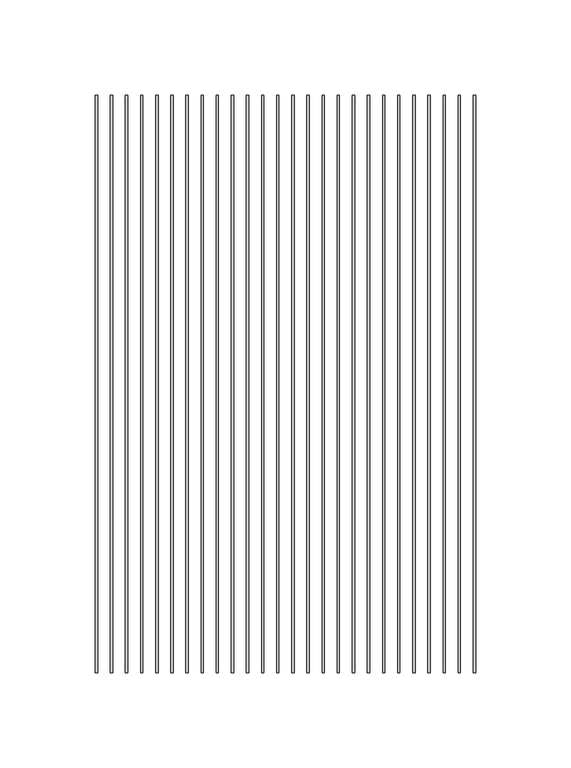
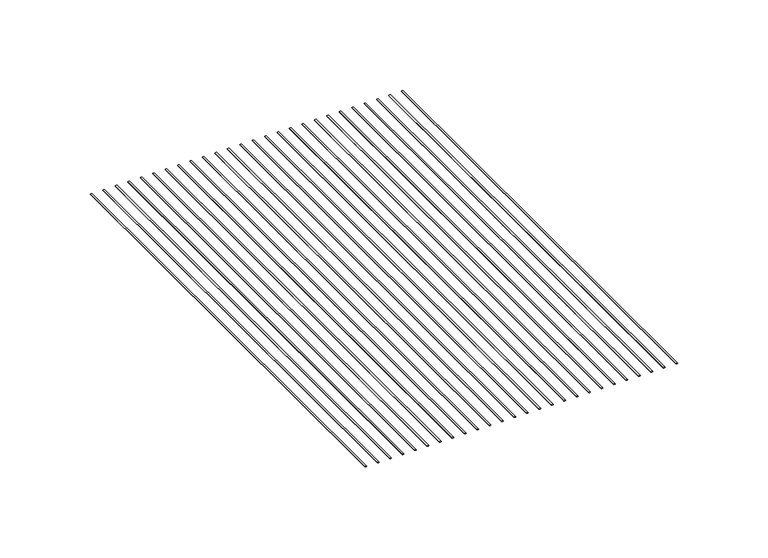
"""IFC4 building model written with IfcOpenShell, lengths in millimetres: proxy geometry, CRAi Generic Model Mesh Piece Face Based : CRAi Generic Model Mesh Piece Face Based."""

from ifc_helpers import new_model, si_unit, point, frame, origin, place, context, project, spatial, ellipse_curve, trimmed, source, transform, mapped, element, save
from ifc_brep_helpers import plane_surface, extruded_surface, advanced_brep


def generic_models_9cce42f9(model_context):
    return source(origin(), model_context, "Body", "AdvancedBrep", [
        advanced_brep(
        [(-164.9015625, -151.5685464, -2.5796875), (-163.7109375, -151.5685464, -2.5796875), (-164.9015625, 151.5685464, -2.5796875), (-163.7109375, 151.5685464, -2.5796875)],
        [
            (0, 1, ellipse_curve(frame((-164.30625, -151.5685464, -2.5796875), z_axis=(0.0, -1.0, 0.0), x_axis=(1.0, 0.0, 0.0)), 0.5953125, 0.1984375)),
            (1, 0, ellipse_curve(frame((-164.30625, -151.5685464, -2.5796875), z_axis=(0.0, -1.0, 0.0), x_axis=(1.0, 0.0, 0.0)), 0.5953125, 0.1984375)),
            (2, 3, ellipse_curve(frame((-164.30625, 151.5685464, -2.5796875), z_axis=(0.0, 1.0, 0.0), x_axis=(1.0, 0.0, 0.0)), 0.5953125, 0.1984375)),
            (3, 2, ellipse_curve(frame((-164.30625, 151.5685464, -2.5796875), z_axis=(0.0, 1.0, 0.0), x_axis=(1.0, 0.0, 0.0)), 0.5953125, 0.1984375)),
            (0, 2),
            (3, 1),
        ],
        [
            plane_surface(frame((-164.30625, -151.5685464, -2.5796875), z_axis=(0.0, -1.0, 0.0), x_axis=(0.0, 0.0, 1.0))),
            plane_surface(frame((-164.30625, 151.5685464, -2.5796875), z_axis=(0.0, 1.0, 0.0), x_axis=(0.0, 0.0, 1.0))),
            extruded_surface(trimmed(ellipse_curve(frame((-164.30625, 151.5685464, -2.5796875), z_axis=(0.0, -1.0, 0.0), x_axis=(1.0, 0.0, 0.0)), 0.5953125, 0.1984375), [point((-164.9015625, 151.5685464, -2.5796875))], [point((-163.7109375, 151.5685464, -2.5796875))], True, "CARTESIAN"), (0.0, -303.1370928, 0.0), 303.1370928),
            extruded_surface(trimmed(ellipse_curve(frame((-164.30625, 151.5685464, -2.5796875), z_axis=(0.0, -1.0, 0.0), x_axis=(1.0, 0.0, 0.0)), 0.5953125, 0.1984375), [point((-163.7109375, 151.5685464, -2.5796875))], [point((-164.9015625, 151.5685464, -2.5796875))], True, "CARTESIAN"), (0.0, -303.1370928, 0.0), 303.1370928),
        ],
        [
            (0, [[1, 2]]),
            (1, [[3, 4]]),
            (2, [[-1, 5, -4, 6]]),
            (3, [[-2, -6, -3, -5]]),
        ],
    ),
        advanced_brep(
        [(-156.9640625, -151.5685464, -2.5796875), (-155.7734375, -151.5685464, -2.5796875), (-156.9640625, 151.5685464, -2.5796875), (-155.7734375, 151.5685464, -2.5796875)],
        [
            (0, 1, ellipse_curve(frame((-156.36875, -151.5685464, -2.5796875), z_axis=(0.0, -1.0, 0.0), x_axis=(1.0, 0.0, 0.0)), 0.5953125, 0.1984375)),
            (1, 0, ellipse_curve(frame((-156.36875, -151.5685464, -2.5796875), z_axis=(0.0, -1.0, 0.0), x_axis=(1.0, 0.0, 0.0)), 0.5953125, 0.1984375)),
            (2, 3, ellipse_curve(frame((-156.36875, 151.5685464, -2.5796875), z_axis=(0.0, 1.0, 0.0), x_axis=(1.0, 0.0, 0.0)), 0.5953125, 0.1984375)),
            (3, 2, ellipse_curve(frame((-156.36875, 151.5685464, -2.5796875), z_axis=(0.0, 1.0, 0.0), x_axis=(1.0, 0.0, 0.0)), 0.5953125, 0.1984375)),
            (0, 2),
            (3, 1),
        ],
        [
            plane_surface(frame((-156.36875, -151.5685464, -2.5796875), z_axis=(0.0, -1.0, 0.0), x_axis=(0.0, 0.0, 1.0))),
            plane_surface(frame((-156.36875, 151.5685464, -2.5796875), z_axis=(0.0, 1.0, 0.0), x_axis=(0.0, 0.0, 1.0))),
            extruded_surface(trimmed(ellipse_curve(frame((-156.36875, 151.5685464, -2.5796875), z_axis=(0.0, -1.0, 0.0), x_axis=(1.0, 0.0, 0.0)), 0.5953125, 0.1984375), [point((-156.9640625, 151.5685464, -2.5796875))], [point((-155.7734375, 151.5685464, -2.5796875))], True, "CARTESIAN"), (0.0, -303.1370928, 0.0), 303.1370928),
            extruded_surface(trimmed(ellipse_curve(frame((-156.36875, 151.5685464, -2.5796875), z_axis=(0.0, -1.0, 0.0), x_axis=(1.0, 0.0, 0.0)), 0.5953125, 0.1984375), [point((-155.7734375, 151.5685464, -2.5796875))], [point((-156.9640625, 151.5685464, -2.5796875))], True, "CARTESIAN"), (0.0, -303.1370928, 0.0), 303.1370928),
        ],
        [
            (0, [[1, 2]]),
            (1, [[3, 4]]),
            (2, [[-1, 5, -4, 6]]),
            (3, [[-2, -6, -3, -5]]),
        ],
    ),
        advanced_brep(
        [(-149.0265625, -151.5685464, -2.5796875), (-147.8359375, -151.5685464, -2.5796875), (-149.0265625, 151.5685464, -2.5796875), (-147.8359375, 151.5685464, -2.5796875)],
        [
            (0, 1, ellipse_curve(frame((-148.43125, -151.5685464, -2.5796875), z_axis=(0.0, -1.0, 0.0), x_axis=(1.0, 0.0, 0.0)), 0.5953125, 0.1984375)),
            (1, 0, ellipse_curve(frame((-148.43125, -151.5685464, -2.5796875), z_axis=(0.0, -1.0, 0.0), x_axis=(1.0, 0.0, 0.0)), 0.5953125, 0.1984375)),
            (2, 3, ellipse_curve(frame((-148.43125, 151.5685464, -2.5796875), z_axis=(0.0, 1.0, 0.0), x_axis=(1.0, 0.0, 0.0)), 0.5953125, 0.1984375)),
            (3, 2, ellipse_curve(frame((-148.43125, 151.5685464, -2.5796875), z_axis=(0.0, 1.0, 0.0), x_axis=(1.0, 0.0, 0.0)), 0.5953125, 0.1984375)),
            (0, 2),
            (3, 1),
        ],
        [
            plane_surface(frame((-148.43125, -151.5685464, -2.5796875), z_axis=(0.0, -1.0, 0.0), x_axis=(0.0, 0.0, 1.0))),
            plane_surface(frame((-148.43125, 151.5685464, -2.5796875), z_axis=(0.0, 1.0, 0.0), x_axis=(0.0, 0.0, 1.0))),
            extruded_surface(trimmed(ellipse_curve(frame((-148.43125, 151.5685464, -2.5796875), z_axis=(0.0, -1.0, 0.0), x_axis=(1.0, 0.0, 0.0)), 0.5953125, 0.1984375), [point((-149.0265625, 151.5685464, -2.5796875))], [point((-147.8359375, 151.5685464, -2.5796875))], True, "CARTESIAN"), (0.0, -303.1370928, 0.0), 303.1370928),
            extruded_surface(trimmed(ellipse_curve(frame((-148.43125, 151.5685464, -2.5796875), z_axis=(0.0, -1.0, 0.0), x_axis=(1.0, 0.0, 0.0)), 0.5953125, 0.1984375), [point((-147.8359375, 151.5685464, -2.5796875))], [point((-149.0265625, 151.5685464, -2.5796875))], True, "CARTESIAN"), (0.0, -303.1370928, 0.0), 303.1370928),
        ],
        [
            (0, [[1, 2]]),
            (1, [[3, 4]]),
            (2, [[-1, 5, -4, 6]]),
            (3, [[-2, -6, -3, -5]]),
        ],
    ),
        advanced_brep(
        [(-141.0890625, -151.5685464, -2.5796875), (-139.8984375, -151.5685464, -2.5796875), (-141.0890625, 151.5685464, -2.5796875), (-139.8984375, 151.5685464, -2.5796875)],
        [
            (0, 1, ellipse_curve(frame((-140.49375, -151.5685464, -2.5796875), z_axis=(0.0, -1.0, 0.0), x_axis=(1.0, 0.0, 0.0)), 0.5953125, 0.1984375)),
            (1, 0, ellipse_curve(frame((-140.49375, -151.5685464, -2.5796875), z_axis=(0.0, -1.0, 0.0), x_axis=(1.0, 0.0, 0.0)), 0.5953125, 0.1984375)),
            (2, 3, ellipse_curve(frame((-140.49375, 151.5685464, -2.5796875), z_axis=(0.0, 1.0, 0.0), x_axis=(1.0, 0.0, 0.0)), 0.5953125, 0.1984375)),
            (3, 2, ellipse_curve(frame((-140.49375, 151.5685464, -2.5796875), z_axis=(0.0, 1.0, 0.0), x_axis=(1.0, 0.0, 0.0)), 0.5953125, 0.1984375)),
            (0, 2),
            (3, 1),
        ],
        [
            plane_surface(frame((-140.49375, -151.5685464, -2.5796875), z_axis=(0.0, -1.0, 0.0), x_axis=(0.0, 0.0, 1.0))),
            plane_surface(frame((-140.49375, 151.5685464, -2.5796875), z_axis=(0.0, 1.0, 0.0), x_axis=(0.0, 0.0, 1.0))),
            extruded_surface(trimmed(ellipse_curve(frame((-140.49375, 151.5685464, -2.5796875), z_axis=(0.0, -1.0, 0.0), x_axis=(1.0, 0.0, 0.0)), 0.5953125, 0.1984375), [point((-141.0890625, 151.5685464, -2.5796875))], [point((-139.8984375, 151.5685464, -2.5796875))], True, "CARTESIAN"), (0.0, -303.1370928, 0.0), 303.1370928),
            extruded_surface(trimmed(ellipse_curve(frame((-140.49375, 151.5685464, -2.5796875), z_axis=(0.0, -1.0, 0.0), x_axis=(1.0, 0.0, 0.0)), 0.5953125, 0.1984375), [point((-139.8984375, 151.5685464, -2.5796875))], [point((-141.0890625, 151.5685464, -2.5796875))], True, "CARTESIAN"), (0.0, -303.1370928, 0.0), 303.1370928),
        ],
        [
            (0, [[1, 2]]),
            (1, [[3, 4]]),
            (2, [[-1, 5, -4, 6]]),
            (3, [[-2, -6, -3, -5]]),
        ],
    ),
        advanced_brep(
        [(-133.1515625, -151.5685464, -2.5796875), (-131.9609375, -151.5685464, -2.5796875), (-133.1515625, 151.5685464, -2.5796875), (-131.9609375, 151.5685464, -2.5796875)],
        [
            (0, 1, ellipse_curve(frame((-132.55625, -151.5685464, -2.5796875), z_axis=(0.0, -1.0, 0.0), x_axis=(1.0, 0.0, 0.0)), 0.5953125, 0.1984375)),
            (1, 0, ellipse_curve(frame((-132.55625, -151.5685464, -2.5796875), z_axis=(0.0, -1.0, 0.0), x_axis=(1.0, 0.0, 0.0)), 0.5953125, 0.1984375)),
            (2, 3, ellipse_curve(frame((-132.55625, 151.5685464, -2.5796875), z_axis=(0.0, 1.0, 0.0), x_axis=(1.0, 0.0, 0.0)), 0.5953125, 0.1984375)),
            (3, 2, ellipse_curve(frame((-132.55625, 151.5685464, -2.5796875), z_axis=(0.0, 1.0, 0.0), x_axis=(1.0, 0.0, 0.0)), 0.5953125, 0.1984375)),
            (0, 2),
            (3, 1),
        ],
        [
            plane_surface(frame((-132.55625, -151.5685464, -2.5796875), z_axis=(0.0, -1.0, 0.0), x_axis=(0.0, 0.0, 1.0))),
            plane_surface(frame((-132.55625, 151.5685464, -2.5796875), z_axis=(0.0, 1.0, 0.0), x_axis=(0.0, 0.0, 1.0))),
            extruded_surface(trimmed(ellipse_curve(frame((-132.55625, 151.5685464, -2.5796875), z_axis=(0.0, -1.0, 0.0), x_axis=(1.0, 0.0, 0.0)), 0.5953125, 0.1984375), [point((-133.1515625, 151.5685464, -2.5796875))], [point((-131.9609375, 151.5685464, -2.5796875))], True, "CARTESIAN"), (0.0, -303.1370928, 0.0), 303.1370928),
            extruded_surface(trimmed(ellipse_curve(frame((-132.55625, 151.5685464, -2.5796875), z_axis=(0.0, -1.0, 0.0), x_axis=(1.0, 0.0, 0.0)), 0.5953125, 0.1984375), [point((-131.9609375, 151.5685464, -2.5796875))], [point((-133.1515625, 151.5685464, -2.5796875))], True, "CARTESIAN"), (0.0, -303.1370928, 0.0), 303.1370928),
        ],
        [
            (0, [[1, 2]]),
            (1, [[3, 4]]),
            (2, [[-1, 5, -4, 6]]),
            (3, [[-2, -6, -3, -5]]),
        ],
    ),
        advanced_brep(
        [(-125.2140625, -151.5685464, -2.5796875), (-124.0234375, -151.5685464, -2.5796875), (-125.2140625, 151.5685464, -2.5796875), (-124.0234375, 151.5685464, -2.5796875)],
        [
            (0, 1, ellipse_curve(frame((-124.61875, -151.5685464, -2.5796875), z_axis=(0.0, -1.0, 0.0), x_axis=(1.0, 0.0, 0.0)), 0.5953125, 0.1984375)),
            (1, 0, ellipse_curve(frame((-124.61875, -151.5685464, -2.5796875), z_axis=(0.0, -1.0, 0.0), x_axis=(1.0, 0.0, 0.0)), 0.5953125, 0.1984375)),
            (2, 3, ellipse_curve(frame((-124.61875, 151.5685464, -2.5796875), z_axis=(0.0, 1.0, 0.0), x_axis=(1.0, 0.0, 0.0)), 0.5953125, 0.1984375)),
            (3, 2, ellipse_curve(frame((-124.61875, 151.5685464, -2.5796875), z_axis=(0.0, 1.0, 0.0), x_axis=(1.0, 0.0, 0.0)), 0.5953125, 0.1984375)),
            (0, 2),
            (3, 1),
        ],
        [
            plane_surface(frame((-124.61875, -151.5685464, -2.5796875), z_axis=(0.0, -1.0, 0.0), x_axis=(0.0, 0.0, 1.0))),
            plane_surface(frame((-124.61875, 151.5685464, -2.5796875), z_axis=(0.0, 1.0, 0.0), x_axis=(0.0, 0.0, 1.0))),
            extruded_surface(trimmed(ellipse_curve(frame((-124.61875, 151.5685464, -2.5796875), z_axis=(0.0, -1.0, 0.0), x_axis=(1.0, 0.0, 0.0)), 0.5953125, 0.1984375), [point((-125.2140625, 151.5685464, -2.5796875))], [point((-124.0234375, 151.5685464, -2.5796875))], True, "CARTESIAN"), (0.0, -303.1370928, 0.0), 303.1370928),
            extruded_surface(trimmed(ellipse_curve(frame((-124.61875, 151.5685464, -2.5796875), z_axis=(0.0, -1.0, 0.0), x_axis=(1.0, 0.0, 0.0)), 0.5953125, 0.1984375), [point((-124.0234375, 151.5685464, -2.5796875))], [point((-125.2140625, 151.5685464, -2.5796875))], True, "CARTESIAN"), (0.0, -303.1370928, 0.0), 303.1370928),
        ],
        [
            (0, [[1, 2]]),
            (1, [[3, 4]]),
            (2, [[-1, 5, -4, 6]]),
            (3, [[-2, -6, -3, -5]]),
        ],
    ),
        advanced_brep(
        [(-117.2765625, -151.5685464, -2.5796875), (-116.0859375, -151.5685464, -2.5796875), (-117.2765625, 151.5685464, -2.5796875), (-116.0859375, 151.5685464, -2.5796875)],
        [
            (0, 1, ellipse_curve(frame((-116.68125, -151.5685464, -2.5796875), z_axis=(0.0, -1.0, 0.0), x_axis=(1.0, 0.0, 0.0)), 0.5953125, 0.1984375)),
            (1, 0, ellipse_curve(frame((-116.68125, -151.5685464, -2.5796875), z_axis=(0.0, -1.0, 0.0), x_axis=(1.0, 0.0, 0.0)), 0.5953125, 0.1984375)),
            (2, 3, ellipse_curve(frame((-116.68125, 151.5685464, -2.5796875), z_axis=(0.0, 1.0, 0.0), x_axis=(1.0, 0.0, 0.0)), 0.5953125, 0.1984375)),
            (3, 2, ellipse_curve(frame((-116.68125, 151.5685464, -2.5796875), z_axis=(0.0, 1.0, 0.0), x_axis=(1.0, 0.0, 0.0)), 0.5953125, 0.1984375)),
            (0, 2),
            (3, 1),
        ],
        [
            plane_surface(frame((-116.68125, -151.5685464, -2.5796875), z_axis=(0.0, -1.0, 0.0), x_axis=(0.0, 0.0, 1.0))),
            plane_surface(frame((-116.68125, 151.5685464, -2.5796875), z_axis=(0.0, 1.0, 0.0), x_axis=(0.0, 0.0, 1.0))),
            extruded_surface(trimmed(ellipse_curve(frame((-116.68125, 151.5685464, -2.5796875), z_axis=(0.0, -1.0, 0.0), x_axis=(1.0, 0.0, 0.0)), 0.5953125, 0.1984375), [point((-117.2765625, 151.5685464, -2.5796875))], [point((-116.0859375, 151.5685464, -2.5796875))], True, "CARTESIAN"), (0.0, -303.1370928, 0.0), 303.1370928),
            extruded_surface(trimmed(ellipse_curve(frame((-116.68125, 151.5685464, -2.5796875), z_axis=(0.0, -1.0, 0.0), x_axis=(1.0, 0.0, 0.0)), 0.5953125, 0.1984375), [point((-116.0859375, 151.5685464, -2.5796875))], [point((-117.2765625, 151.5685464, -2.5796875))], True, "CARTESIAN"), (0.0, -303.1370928, 0.0), 303.1370928),
        ],
        [
            (0, [[1, 2]]),
            (1, [[3, 4]]),
            (2, [[-1, 5, -4, 6]]),
            (3, [[-2, -6, -3, -5]]),
        ],
    ),
        advanced_brep(
        [(-109.3390625, -151.5685464, -2.5796875), (-108.1484375, -151.5685464, -2.5796875), (-109.3390625, 151.5685464, -2.5796875), (-108.1484375, 151.5685464, -2.5796875)],
        [
            (0, 1, ellipse_curve(frame((-108.74375, -151.5685464, -2.5796875), z_axis=(0.0, -1.0, 0.0), x_axis=(1.0, 0.0, 0.0)), 0.5953125, 0.1984375)),
            (1, 0, ellipse_curve(frame((-108.74375, -151.5685464, -2.5796875), z_axis=(0.0, -1.0, 0.0), x_axis=(1.0, 0.0, 0.0)), 0.5953125, 0.1984375)),
            (2, 3, ellipse_curve(frame((-108.74375, 151.5685464, -2.5796875), z_axis=(0.0, 1.0, 0.0), x_axis=(1.0, 0.0, 0.0)), 0.5953125, 0.1984375)),
            (3, 2, ellipse_curve(frame((-108.74375, 151.5685464, -2.5796875), z_axis=(0.0, 1.0, 0.0), x_axis=(1.0, 0.0, 0.0)), 0.5953125, 0.1984375)),
            (0, 2),
            (3, 1),
        ],
        [
            plane_surface(frame((-108.74375, -151.5685464, -2.5796875), z_axis=(0.0, -1.0, 0.0), x_axis=(0.0, 0.0, 1.0))),
            plane_surface(frame((-108.74375, 151.5685464, -2.5796875), z_axis=(0.0, 1.0, 0.0), x_axis=(0.0, 0.0, 1.0))),
            extruded_surface(trimmed(ellipse_curve(frame((-108.74375, 151.5685464, -2.5796875), z_axis=(0.0, -1.0, 0.0), x_axis=(1.0, 0.0, 0.0)), 0.5953125, 0.1984375), [point((-109.3390625, 151.5685464, -2.5796875))], [point((-108.1484375, 151.5685464, -2.5796875))], True, "CARTESIAN"), (0.0, -303.1370928, 0.0), 303.1370928),
            extruded_surface(trimmed(ellipse_curve(frame((-108.74375, 151.5685464, -2.5796875), z_axis=(0.0, -1.0, 0.0), x_axis=(1.0, 0.0, 0.0)), 0.5953125, 0.1984375), [point((-108.1484375, 151.5685464, -2.5796875))], [point((-109.3390625, 151.5685464, -2.5796875))], True, "CARTESIAN"), (0.0, -303.1370928, 0.0), 303.1370928),
        ],
        [
            (0, [[1, 2]]),
            (1, [[3, 4]]),
            (2, [[-1, 5, -4, 6]]),
            (3, [[-2, -6, -3, -5]]),
        ],
    ),
        advanced_brep(
        [(-101.4015625, -151.5685464, -2.5796875), (-100.2109375, -151.5685464, -2.5796875), (-101.4015625, 151.5685464, -2.5796875), (-100.2109375, 151.5685464, -2.5796875)],
        [
            (0, 1, ellipse_curve(frame((-100.80625, -151.5685464, -2.5796875), z_axis=(0.0, -1.0, 0.0), x_axis=(1.0, 0.0, 0.0)), 0.5953125, 0.1984375)),
            (1, 0, ellipse_curve(frame((-100.80625, -151.5685464, -2.5796875), z_axis=(0.0, -1.0, 0.0), x_axis=(1.0, 0.0, 0.0)), 0.5953125, 0.1984375)),
            (2, 3, ellipse_curve(frame((-100.80625, 151.5685464, -2.5796875), z_axis=(0.0, 1.0, 0.0), x_axis=(1.0, 0.0, 0.0)), 0.5953125, 0.1984375)),
            (3, 2, ellipse_curve(frame((-100.80625, 151.5685464, -2.5796875), z_axis=(0.0, 1.0, 0.0), x_axis=(1.0, 0.0, 0.0)), 0.5953125, 0.1984375)),
            (0, 2),
            (3, 1),
        ],
        [
            plane_surface(frame((-100.80625, -151.5685464, -2.5796875), z_axis=(0.0, -1.0, 0.0), x_axis=(0.0, 0.0, 1.0))),
            plane_surface(frame((-100.80625, 151.5685464, -2.5796875), z_axis=(0.0, 1.0, 0.0), x_axis=(0.0, 0.0, 1.0))),
            extruded_surface(trimmed(ellipse_curve(frame((-100.80625, 151.5685464, -2.5796875), z_axis=(0.0, -1.0, 0.0), x_axis=(1.0, 0.0, 0.0)), 0.5953125, 0.1984375), [point((-101.4015625, 151.5685464, -2.5796875))], [point((-100.2109375, 151.5685464, -2.5796875))], True, "CARTESIAN"), (0.0, -303.1370928, 0.0), 303.1370928),
            extruded_surface(trimmed(ellipse_curve(frame((-100.80625, 151.5685464, -2.5796875), z_axis=(0.0, -1.0, 0.0), x_axis=(1.0, 0.0, 0.0)), 0.5953125, 0.1984375), [point((-100.2109375, 151.5685464, -2.5796875))], [point((-101.4015625, 151.5685464, -2.5796875))], True, "CARTESIAN"), (0.0, -303.1370928, 0.0), 303.1370928),
        ],
        [
            (0, [[1, 2]]),
            (1, [[3, 4]]),
            (2, [[-1, 5, -4, 6]]),
            (3, [[-2, -6, -3, -5]]),
        ],
    ),
        advanced_brep(
        [(-93.4640625, -151.5685464, -2.5796875), (-92.2734375, -151.5685464, -2.5796875), (-93.4640625, 151.5685464, -2.5796875), (-92.2734375, 151.5685464, -2.5796875)],
        [
            (0, 1, ellipse_curve(frame((-92.86875, -151.5685464, -2.5796875), z_axis=(0.0, -1.0, 0.0), x_axis=(1.0, 0.0, 0.0)), 0.5953125, 0.1984375)),
            (1, 0, ellipse_curve(frame((-92.86875, -151.5685464, -2.5796875), z_axis=(0.0, -1.0, 0.0), x_axis=(1.0, 0.0, 0.0)), 0.5953125, 0.1984375)),
            (2, 3, ellipse_curve(frame((-92.86875, 151.5685464, -2.5796875), z_axis=(0.0, 1.0, 0.0), x_axis=(1.0, 0.0, 0.0)), 0.5953125, 0.1984375)),
            (3, 2, ellipse_curve(frame((-92.86875, 151.5685464, -2.5796875), z_axis=(0.0, 1.0, 0.0), x_axis=(1.0, 0.0, 0.0)), 0.5953125, 0.1984375)),
            (0, 2),
            (3, 1),
        ],
        [
            plane_surface(frame((-92.86875, -151.5685464, -2.5796875), z_axis=(0.0, -1.0, 0.0), x_axis=(0.0, 0.0, 1.0))),
            plane_surface(frame((-92.86875, 151.5685464, -2.5796875), z_axis=(0.0, 1.0, 0.0), x_axis=(0.0, 0.0, 1.0))),
            extruded_surface(trimmed(ellipse_curve(frame((-92.86875, 151.5685464, -2.5796875), z_axis=(0.0, -1.0, 0.0), x_axis=(1.0, 0.0, 0.0)), 0.5953125, 0.1984375), [point((-93.4640625, 151.5685464, -2.5796875))], [point((-92.2734375, 151.5685464, -2.5796875))], True, "CARTESIAN"), (0.0, -303.1370928, 0.0), 303.1370928),
            extruded_surface(trimmed(ellipse_curve(frame((-92.86875, 151.5685464, -2.5796875), z_axis=(0.0, -1.0, 0.0), x_axis=(1.0, 0.0, 0.0)), 0.5953125, 0.1984375), [point((-92.2734375, 151.5685464, -2.5796875))], [point((-93.4640625, 151.5685464, -2.5796875))], True, "CARTESIAN"), (0.0, -303.1370928, 0.0), 303.1370928),
        ],
        [
            (0, [[1, 2]]),
            (1, [[3, 4]]),
            (2, [[-1, 5, -4, 6]]),
            (3, [[-2, -6, -3, -5]]),
        ],
    ),
        advanced_brep(
        [(-85.5265625, -151.5685464, -2.5796875), (-84.3359375, -151.5685464, -2.5796875), (-85.5265625, 151.5685464, -2.5796875), (-84.3359375, 151.5685464, -2.5796875)],
        [
            (0, 1, ellipse_curve(frame((-84.93125, -151.5685464, -2.5796875), z_axis=(0.0, -1.0, 0.0), x_axis=(1.0, 0.0, 0.0)), 0.5953125, 0.1984375)),
            (1, 0, ellipse_curve(frame((-84.93125, -151.5685464, -2.5796875), z_axis=(0.0, -1.0, 0.0), x_axis=(1.0, 0.0, 0.0)), 0.5953125, 0.1984375)),
            (2, 3, ellipse_curve(frame((-84.93125, 151.5685464, -2.5796875), z_axis=(0.0, 1.0, 0.0), x_axis=(1.0, 0.0, 0.0)), 0.5953125, 0.1984375)),
            (3, 2, ellipse_curve(frame((-84.93125, 151.5685464, -2.5796875), z_axis=(0.0, 1.0, 0.0), x_axis=(1.0, 0.0, 0.0)), 0.5953125, 0.1984375)),
            (0, 2),
            (3, 1),
        ],
        [
            plane_surface(frame((-84.93125, -151.5685464, -2.5796875), z_axis=(0.0, -1.0, 0.0), x_axis=(0.0, 0.0, 1.0))),
            plane_surface(frame((-84.93125, 151.5685464, -2.5796875), z_axis=(0.0, 1.0, 0.0), x_axis=(0.0, 0.0, 1.0))),
            extruded_surface(trimmed(ellipse_curve(frame((-84.93125, 151.5685464, -2.5796875), z_axis=(0.0, -1.0, 0.0), x_axis=(1.0, 0.0, 0.0)), 0.5953125, 0.1984375), [point((-85.5265625, 151.5685464, -2.5796875))], [point((-84.3359375, 151.5685464, -2.5796875))], True, "CARTESIAN"), (0.0, -303.1370928, 0.0), 303.1370928),
            extruded_surface(trimmed(ellipse_curve(frame((-84.93125, 151.5685464, -2.5796875), z_axis=(0.0, -1.0, 0.0), x_axis=(1.0, 0.0, 0.0)), 0.5953125, 0.1984375), [point((-84.3359375, 151.5685464, -2.5796875))], [point((-85.5265625, 151.5685464, -2.5796875))], True, "CARTESIAN"), (0.0, -303.1370928, 0.0), 303.1370928),
        ],
        [
            (0, [[1, 2]]),
            (1, [[3, 4]]),
            (2, [[-1, 5, -4, 6]]),
            (3, [[-2, -6, -3, -5]]),
        ],
    ),
        advanced_brep(
        [(-77.5890625, -151.5685464, -2.5796875), (-76.3984375, -151.5685464, -2.5796875), (-77.5890625, 151.5685464, -2.5796875), (-76.3984375, 151.5685464, -2.5796875)],
        [
            (0, 1, ellipse_curve(frame((-76.99375, -151.5685464, -2.5796875), z_axis=(0.0, -1.0, 0.0), x_axis=(1.0, 0.0, 0.0)), 0.5953125, 0.1984375)),
            (1, 0, ellipse_curve(frame((-76.99375, -151.5685464, -2.5796875), z_axis=(0.0, -1.0, 0.0), x_axis=(1.0, 0.0, 0.0)), 0.5953125, 0.1984375)),
            (2, 3, ellipse_curve(frame((-76.99375, 151.5685464, -2.5796875), z_axis=(0.0, 1.0, 0.0), x_axis=(1.0, 0.0, 0.0)), 0.5953125, 0.1984375)),
            (3, 2, ellipse_curve(frame((-76.99375, 151.5685464, -2.5796875), z_axis=(0.0, 1.0, 0.0), x_axis=(1.0, 0.0, 0.0)), 0.5953125, 0.1984375)),
            (0, 2),
            (3, 1),
        ],
        [
            plane_surface(frame((-76.99375, -151.5685464, -2.5796875), z_axis=(0.0, -1.0, 0.0), x_axis=(0.0, 0.0, 1.0))),
            plane_surface(frame((-76.99375, 151.5685464, -2.5796875), z_axis=(0.0, 1.0, 0.0), x_axis=(0.0, 0.0, 1.0))),
            extruded_surface(trimmed(ellipse_curve(frame((-76.99375, 151.5685464, -2.5796875), z_axis=(0.0, -1.0, 0.0), x_axis=(1.0, 0.0, 0.0)), 0.5953125, 0.1984375), [point((-77.5890625, 151.5685464, -2.5796875))], [point((-76.3984375, 151.5685464, -2.5796875))], True, "CARTESIAN"), (0.0, -303.1370928, 0.0), 303.1370928),
            extruded_surface(trimmed(ellipse_curve(frame((-76.99375, 151.5685464, -2.5796875), z_axis=(0.0, -1.0, 0.0), x_axis=(1.0, 0.0, 0.0)), 0.5953125, 0.1984375), [point((-76.3984375, 151.5685464, -2.5796875))], [point((-77.5890625, 151.5685464, -2.5796875))], True, "CARTESIAN"), (0.0, -303.1370928, 0.0), 303.1370928),
        ],
        [
            (0, [[1, 2]]),
            (1, [[3, 4]]),
            (2, [[-1, 5, -4, 6]]),
            (3, [[-2, -6, -3, -5]]),
        ],
    ),
        advanced_brep(
        [(-69.6515625, -151.5685464, -2.5796875), (-68.4609375, -151.5685464, -2.5796875), (-69.6515625, 151.5685464, -2.5796875), (-68.4609375, 151.5685464, -2.5796875)],
        [
            (0, 1, ellipse_curve(frame((-69.05625, -151.5685464, -2.5796875), z_axis=(0.0, -1.0, 0.0), x_axis=(1.0, 0.0, 0.0)), 0.5953125, 0.1984375)),
            (1, 0, ellipse_curve(frame((-69.05625, -151.5685464, -2.5796875), z_axis=(0.0, -1.0, 0.0), x_axis=(1.0, 0.0, 0.0)), 0.5953125, 0.1984375)),
            (2, 3, ellipse_curve(frame((-69.05625, 151.5685464, -2.5796875), z_axis=(0.0, 1.0, 0.0), x_axis=(1.0, 0.0, 0.0)), 0.5953125, 0.1984375)),
            (3, 2, ellipse_curve(frame((-69.05625, 151.5685464, -2.5796875), z_axis=(0.0, 1.0, 0.0), x_axis=(1.0, 0.0, 0.0)), 0.5953125, 0.1984375)),
            (0, 2),
            (3, 1),
        ],
        [
            plane_surface(frame((-69.05625, -151.5685464, -2.5796875), z_axis=(0.0, -1.0, 0.0), x_axis=(0.0, 0.0, 1.0))),
            plane_surface(frame((-69.05625, 151.5685464, -2.5796875), z_axis=(0.0, 1.0, 0.0), x_axis=(0.0, 0.0, 1.0))),
            extruded_surface(trimmed(ellipse_curve(frame((-69.05625, 151.5685464, -2.5796875), z_axis=(0.0, -1.0, 0.0), x_axis=(1.0, 0.0, 0.0)), 0.5953125, 0.1984375), [point((-69.6515625, 151.5685464, -2.5796875))], [point((-68.4609375, 151.5685464, -2.5796875))], True, "CARTESIAN"), (0.0, -303.1370928, 0.0), 303.1370928),
            extruded_surface(trimmed(ellipse_curve(frame((-69.05625, 151.5685464, -2.5796875), z_axis=(0.0, -1.0, 0.0), x_axis=(1.0, 0.0, 0.0)), 0.5953125, 0.1984375), [point((-68.4609375, 151.5685464, -2.5796875))], [point((-69.6515625, 151.5685464, -2.5796875))], True, "CARTESIAN"), (0.0, -303.1370928, 0.0), 303.1370928),
        ],
        [
            (0, [[1, 2]]),
            (1, [[3, 4]]),
            (2, [[-1, 5, -4, 6]]),
            (3, [[-2, -6, -3, -5]]),
        ],
    ),
        advanced_brep(
        [(-61.7140625, -151.5685464, -2.5796875), (-60.5234375, -151.5685464, -2.5796875), (-61.7140625, 151.5685464, -2.5796875), (-60.5234375, 151.5685464, -2.5796875)],
        [
            (0, 1, ellipse_curve(frame((-61.11875, -151.5685464, -2.5796875), z_axis=(0.0, -1.0, 0.0), x_axis=(1.0, 0.0, 0.0)), 0.5953125, 0.1984375)),
            (1, 0, ellipse_curve(frame((-61.11875, -151.5685464, -2.5796875), z_axis=(0.0, -1.0, 0.0), x_axis=(1.0, 0.0, 0.0)), 0.5953125, 0.1984375)),
            (2, 3, ellipse_curve(frame((-61.11875, 151.5685464, -2.5796875), z_axis=(0.0, 1.0, 0.0), x_axis=(1.0, 0.0, 0.0)), 0.5953125, 0.1984375)),
            (3, 2, ellipse_curve(frame((-61.11875, 151.5685464, -2.5796875), z_axis=(0.0, 1.0, 0.0), x_axis=(1.0, 0.0, 0.0)), 0.5953125, 0.1984375)),
            (0, 2),
            (3, 1),
        ],
        [
            plane_surface(frame((-61.11875, -151.5685464, -2.5796875), z_axis=(0.0, -1.0, 0.0), x_axis=(0.0, 0.0, 1.0))),
            plane_surface(frame((-61.11875, 151.5685464, -2.5796875), z_axis=(0.0, 1.0, 0.0), x_axis=(0.0, 0.0, 1.0))),
            extruded_surface(trimmed(ellipse_curve(frame((-61.11875, 151.5685464, -2.5796875), z_axis=(0.0, -1.0, 0.0), x_axis=(1.0, 0.0, 0.0)), 0.5953125, 0.1984375), [point((-61.7140625, 151.5685464, -2.5796875))], [point((-60.5234375, 151.5685464, -2.5796875))], True, "CARTESIAN"), (0.0, -303.1370928, 0.0), 303.1370928),
            extruded_surface(trimmed(ellipse_curve(frame((-61.11875, 151.5685464, -2.5796875), z_axis=(0.0, -1.0, 0.0), x_axis=(1.0, 0.0, 0.0)), 0.5953125, 0.1984375), [point((-60.5234375, 151.5685464, -2.5796875))], [point((-61.7140625, 151.5685464, -2.5796875))], True, "CARTESIAN"), (0.0, -303.1370928, 0.0), 303.1370928),
        ],
        [
            (0, [[1, 2]]),
            (1, [[3, 4]]),
            (2, [[-1, 5, -4, 6]]),
            (3, [[-2, -6, -3, -5]]),
        ],
    ),
        advanced_brep(
        [(-53.7765625, -151.5685464, -2.5796875), (-52.5859375, -151.5685464, -2.5796875), (-53.7765625, 151.5685464, -2.5796875), (-52.5859375, 151.5685464, -2.5796875)],
        [
            (0, 1, ellipse_curve(frame((-53.18125, -151.5685464, -2.5796875), z_axis=(0.0, -1.0, 0.0), x_axis=(1.0, 0.0, 0.0)), 0.5953125, 0.1984375)),
            (1, 0, ellipse_curve(frame((-53.18125, -151.5685464, -2.5796875), z_axis=(0.0, -1.0, 0.0), x_axis=(1.0, 0.0, 0.0)), 0.5953125, 0.1984375)),
            (2, 3, ellipse_curve(frame((-53.18125, 151.5685464, -2.5796875), z_axis=(0.0, 1.0, 0.0), x_axis=(1.0, 0.0, 0.0)), 0.5953125, 0.1984375)),
            (3, 2, ellipse_curve(frame((-53.18125, 151.5685464, -2.5796875), z_axis=(0.0, 1.0, 0.0), x_axis=(1.0, 0.0, 0.0)), 0.5953125, 0.1984375)),
            (0, 2),
            (3, 1),
        ],
        [
            plane_surface(frame((-53.18125, -151.5685464, -2.5796875), z_axis=(0.0, -1.0, 0.0), x_axis=(0.0, 0.0, 1.0))),
            plane_surface(frame((-53.18125, 151.5685464, -2.5796875), z_axis=(0.0, 1.0, 0.0), x_axis=(0.0, 0.0, 1.0))),
            extruded_surface(trimmed(ellipse_curve(frame((-53.18125, 151.5685464, -2.5796875), z_axis=(0.0, -1.0, 0.0), x_axis=(1.0, 0.0, 0.0)), 0.5953125, 0.1984375), [point((-53.7765625, 151.5685464, -2.5796875))], [point((-52.5859375, 151.5685464, -2.5796875))], True, "CARTESIAN"), (0.0, -303.1370928, 0.0), 303.1370928),
            extruded_surface(trimmed(ellipse_curve(frame((-53.18125, 151.5685464, -2.5796875), z_axis=(0.0, -1.0, 0.0), x_axis=(1.0, 0.0, 0.0)), 0.5953125, 0.1984375), [point((-52.5859375, 151.5685464, -2.5796875))], [point((-53.7765625, 151.5685464, -2.5796875))], True, "CARTESIAN"), (0.0, -303.1370928, 0.0), 303.1370928),
        ],
        [
            (0, [[1, 2]]),
            (1, [[3, 4]]),
            (2, [[-1, 5, -4, 6]]),
            (3, [[-2, -6, -3, -5]]),
        ],
    ),
        advanced_brep(
        [(-45.8390625, -151.5685464, -2.5796875), (-44.6484375, -151.5685464, -2.5796875), (-45.8390625, 151.5685464, -2.5796875), (-44.6484375, 151.5685464, -2.5796875)],
        [
            (0, 1, ellipse_curve(frame((-45.24375, -151.5685464, -2.5796875), z_axis=(0.0, -1.0, 0.0), x_axis=(1.0, 0.0, 0.0)), 0.5953125, 0.1984375)),
            (1, 0, ellipse_curve(frame((-45.24375, -151.5685464, -2.5796875), z_axis=(0.0, -1.0, 0.0), x_axis=(1.0, 0.0, 0.0)), 0.5953125, 0.1984375)),
            (2, 3, ellipse_curve(frame((-45.24375, 151.5685464, -2.5796875), z_axis=(0.0, 1.0, 0.0), x_axis=(1.0, 0.0, 0.0)), 0.5953125, 0.1984375)),
            (3, 2, ellipse_curve(frame((-45.24375, 151.5685464, -2.5796875), z_axis=(0.0, 1.0, 0.0), x_axis=(1.0, 0.0, 0.0)), 0.5953125, 0.1984375)),
            (0, 2),
            (3, 1),
        ],
        [
            plane_surface(frame((-45.24375, -151.5685464, -2.5796875), z_axis=(0.0, -1.0, 0.0), x_axis=(0.0, 0.0, 1.0))),
            plane_surface(frame((-45.24375, 151.5685464, -2.5796875), z_axis=(0.0, 1.0, 0.0), x_axis=(0.0, 0.0, 1.0))),
            extruded_surface(trimmed(ellipse_curve(frame((-45.24375, 151.5685464, -2.5796875), z_axis=(0.0, -1.0, 0.0), x_axis=(1.0, 0.0, 0.0)), 0.5953125, 0.1984375), [point((-45.8390625, 151.5685464, -2.5796875))], [point((-44.6484375, 151.5685464, -2.5796875))], True, "CARTESIAN"), (0.0, -303.1370928, 0.0), 303.1370928),
            extruded_surface(trimmed(ellipse_curve(frame((-45.24375, 151.5685464, -2.5796875), z_axis=(0.0, -1.0, 0.0), x_axis=(1.0, 0.0, 0.0)), 0.5953125, 0.1984375), [point((-44.6484375, 151.5685464, -2.5796875))], [point((-45.8390625, 151.5685464, -2.5796875))], True, "CARTESIAN"), (0.0, -303.1370928, 0.0), 303.1370928),
        ],
        [
            (0, [[1, 2]]),
            (1, [[3, 4]]),
            (2, [[-1, 5, -4, 6]]),
            (3, [[-2, -6, -3, -5]]),
        ],
    ),
        advanced_brep(
        [(-37.9015625, -151.5685464, -2.5796875), (-36.7109375, -151.5685464, -2.5796875), (-37.9015625, 151.5685464, -2.5796875), (-36.7109375, 151.5685464, -2.5796875)],
        [
            (0, 1, ellipse_curve(frame((-37.30625, -151.5685464, -2.5796875), z_axis=(0.0, -1.0, 0.0), x_axis=(1.0, 0.0, 0.0)), 0.5953125, 0.1984375)),
            (1, 0, ellipse_curve(frame((-37.30625, -151.5685464, -2.5796875), z_axis=(0.0, -1.0, 0.0), x_axis=(1.0, 0.0, 0.0)), 0.5953125, 0.1984375)),
            (2, 3, ellipse_curve(frame((-37.30625, 151.5685464, -2.5796875), z_axis=(0.0, 1.0, 0.0), x_axis=(1.0, 0.0, 0.0)), 0.5953125, 0.1984375)),
            (3, 2, ellipse_curve(frame((-37.30625, 151.5685464, -2.5796875), z_axis=(0.0, 1.0, 0.0), x_axis=(1.0, 0.0, 0.0)), 0.5953125, 0.1984375)),
            (0, 2),
            (3, 1),
        ],
        [
            plane_surface(frame((-37.30625, -151.5685464, -2.5796875), z_axis=(0.0, -1.0, 0.0), x_axis=(0.0, 0.0, 1.0))),
            plane_surface(frame((-37.30625, 151.5685464, -2.5796875), z_axis=(0.0, 1.0, 0.0), x_axis=(0.0, 0.0, 1.0))),
            extruded_surface(trimmed(ellipse_curve(frame((-37.30625, 151.5685464, -2.5796875), z_axis=(0.0, -1.0, 0.0), x_axis=(1.0, 0.0, 0.0)), 0.5953125, 0.1984375), [point((-37.9015625, 151.5685464, -2.5796875))], [point((-36.7109375, 151.5685464, -2.5796875))], True, "CARTESIAN"), (0.0, -303.1370928, 0.0), 303.1370928),
            extruded_surface(trimmed(ellipse_curve(frame((-37.30625, 151.5685464, -2.5796875), z_axis=(0.0, -1.0, 0.0), x_axis=(1.0, 0.0, 0.0)), 0.5953125, 0.1984375), [point((-36.7109375, 151.5685464, -2.5796875))], [point((-37.9015625, 151.5685464, -2.5796875))], True, "CARTESIAN"), (0.0, -303.1370928, 0.0), 303.1370928),
        ],
        [
            (0, [[1, 2]]),
            (1, [[3, 4]]),
            (2, [[-1, 5, -4, 6]]),
            (3, [[-2, -6, -3, -5]]),
        ],
    ),
        advanced_brep(
        [(-29.9640625, -151.5685464, -2.5796875), (-28.7734375, -151.5685464, -2.5796875), (-29.9640625, 151.5685464, -2.5796875), (-28.7734375, 151.5685464, -2.5796875)],
        [
            (0, 1, ellipse_curve(frame((-29.36875, -151.5685464, -2.5796875), z_axis=(0.0, -1.0, 0.0), x_axis=(1.0, 0.0, 0.0)), 0.5953125, 0.1984375)),
            (1, 0, ellipse_curve(frame((-29.36875, -151.5685464, -2.5796875), z_axis=(0.0, -1.0, 0.0), x_axis=(1.0, 0.0, 0.0)), 0.5953125, 0.1984375)),
            (2, 3, ellipse_curve(frame((-29.36875, 151.5685464, -2.5796875), z_axis=(0.0, 1.0, 0.0), x_axis=(1.0, 0.0, 0.0)), 0.5953125, 0.1984375)),
            (3, 2, ellipse_curve(frame((-29.36875, 151.5685464, -2.5796875), z_axis=(0.0, 1.0, 0.0), x_axis=(1.0, 0.0, 0.0)), 0.5953125, 0.1984375)),
            (0, 2),
            (3, 1),
        ],
        [
            plane_surface(frame((-29.36875, -151.5685464, -2.5796875), z_axis=(0.0, -1.0, 0.0), x_axis=(0.0, 0.0, 1.0))),
            plane_surface(frame((-29.36875, 151.5685464, -2.5796875), z_axis=(0.0, 1.0, 0.0), x_axis=(0.0, 0.0, 1.0))),
            extruded_surface(trimmed(ellipse_curve(frame((-29.36875, 151.5685464, -2.5796875), z_axis=(0.0, -1.0, 0.0), x_axis=(1.0, 0.0, 0.0)), 0.5953125, 0.1984375), [point((-29.9640625, 151.5685464, -2.5796875))], [point((-28.7734375, 151.5685464, -2.5796875))], True, "CARTESIAN"), (0.0, -303.1370928, 0.0), 303.1370928),
            extruded_surface(trimmed(ellipse_curve(frame((-29.36875, 151.5685464, -2.5796875), z_axis=(0.0, -1.0, 0.0), x_axis=(1.0, 0.0, 0.0)), 0.5953125, 0.1984375), [point((-28.7734375, 151.5685464, -2.5796875))], [point((-29.9640625, 151.5685464, -2.5796875))], True, "CARTESIAN"), (0.0, -303.1370928, 0.0), 303.1370928),
        ],
        [
            (0, [[1, 2]]),
            (1, [[3, 4]]),
            (2, [[-1, 5, -4, 6]]),
            (3, [[-2, -6, -3, -5]]),
        ],
    ),
        advanced_brep(
        [(-22.0265625, -151.5685464, -2.5796875), (-20.8359375, -151.5685464, -2.5796875), (-22.0265625, 151.5685464, -2.5796875), (-20.8359375, 151.5685464, -2.5796875)],
        [
            (0, 1, ellipse_curve(frame((-21.43125, -151.5685464, -2.5796875), z_axis=(0.0, -1.0, 0.0), x_axis=(1.0, 0.0, 0.0)), 0.5953125, 0.1984375)),
            (1, 0, ellipse_curve(frame((-21.43125, -151.5685464, -2.5796875), z_axis=(0.0, -1.0, 0.0), x_axis=(1.0, 0.0, 0.0)), 0.5953125, 0.1984375)),
            (2, 3, ellipse_curve(frame((-21.43125, 151.5685464, -2.5796875), z_axis=(0.0, 1.0, 0.0), x_axis=(1.0, 0.0, 0.0)), 0.5953125, 0.1984375)),
            (3, 2, ellipse_curve(frame((-21.43125, 151.5685464, -2.5796875), z_axis=(0.0, 1.0, 0.0), x_axis=(1.0, 0.0, 0.0)), 0.5953125, 0.1984375)),
            (0, 2),
            (3, 1),
        ],
        [
            plane_surface(frame((-21.43125, -151.5685464, -2.5796875), z_axis=(0.0, -1.0, 0.0), x_axis=(0.0, 0.0, 1.0))),
            plane_surface(frame((-21.43125, 151.5685464, -2.5796875), z_axis=(0.0, 1.0, 0.0), x_axis=(0.0, 0.0, 1.0))),
            extruded_surface(trimmed(ellipse_curve(frame((-21.43125, 151.5685464, -2.5796875), z_axis=(0.0, -1.0, 0.0), x_axis=(1.0, 0.0, 0.0)), 0.5953125, 0.1984375), [point((-22.0265625, 151.5685464, -2.5796875))], [point((-20.8359375, 151.5685464, -2.5796875))], True, "CARTESIAN"), (0.0, -303.1370928, 0.0), 303.1370928),
            extruded_surface(trimmed(ellipse_curve(frame((-21.43125, 151.5685464, -2.5796875), z_axis=(0.0, -1.0, 0.0), x_axis=(1.0, 0.0, 0.0)), 0.5953125, 0.1984375), [point((-20.8359375, 151.5685464, -2.5796875))], [point((-22.0265625, 151.5685464, -2.5796875))], True, "CARTESIAN"), (0.0, -303.1370928, 0.0), 303.1370928),
        ],
        [
            (0, [[1, 2]]),
            (1, [[3, 4]]),
            (2, [[-1, 5, -4, 6]]),
            (3, [[-2, -6, -3, -5]]),
        ],
    ),
        advanced_brep(
        [(-14.0890625, -151.5685464, -2.5796875), (-12.8984375, -151.5685464, -2.5796875), (-14.0890625, 151.5685464, -2.5796875), (-12.8984375, 151.5685464, -2.5796875)],
        [
            (0, 1, ellipse_curve(frame((-13.49375, -151.5685464, -2.5796875), z_axis=(0.0, -1.0, 0.0), x_axis=(1.0, 0.0, 0.0)), 0.5953125, 0.1984375)),
            (1, 0, ellipse_curve(frame((-13.49375, -151.5685464, -2.5796875), z_axis=(0.0, -1.0, 0.0), x_axis=(1.0, 0.0, 0.0)), 0.5953125, 0.1984375)),
            (2, 3, ellipse_curve(frame((-13.49375, 151.5685464, -2.5796875), z_axis=(0.0, 1.0, 0.0), x_axis=(1.0, 0.0, 0.0)), 0.5953125, 0.1984375)),
            (3, 2, ellipse_curve(frame((-13.49375, 151.5685464, -2.5796875), z_axis=(0.0, 1.0, 0.0), x_axis=(1.0, 0.0, 0.0)), 0.5953125, 0.1984375)),
            (0, 2),
            (3, 1),
        ],
        [
            plane_surface(frame((-13.49375, -151.5685464, -2.5796875), z_axis=(0.0, -1.0, 0.0), x_axis=(0.0, 0.0, 1.0))),
            plane_surface(frame((-13.49375, 151.5685464, -2.5796875), z_axis=(0.0, 1.0, 0.0), x_axis=(0.0, 0.0, 1.0))),
            extruded_surface(trimmed(ellipse_curve(frame((-13.49375, 151.5685464, -2.5796875), z_axis=(0.0, -1.0, 0.0), x_axis=(1.0, 0.0, 0.0)), 0.5953125, 0.1984375), [point((-14.0890625, 151.5685464, -2.5796875))], [point((-12.8984375, 151.5685464, -2.5796875))], True, "CARTESIAN"), (0.0, -303.1370928, 0.0), 303.1370928),
            extruded_surface(trimmed(ellipse_curve(frame((-13.49375, 151.5685464, -2.5796875), z_axis=(0.0, -1.0, 0.0), x_axis=(1.0, 0.0, 0.0)), 0.5953125, 0.1984375), [point((-12.8984375, 151.5685464, -2.5796875))], [point((-14.0890625, 151.5685464, -2.5796875))], True, "CARTESIAN"), (0.0, -303.1370928, 0.0), 303.1370928),
        ],
        [
            (0, [[1, 2]]),
            (1, [[3, 4]]),
            (2, [[-1, 5, -4, 6]]),
            (3, [[-2, -6, -3, -5]]),
        ],
    ),
        advanced_brep(
        [(-6.1515625, -151.5685464, -2.5796875), (-4.9609375, -151.5685464, -2.5796875), (-6.1515625, 151.5685464, -2.5796875), (-4.9609375, 151.5685464, -2.5796875)],
        [
            (0, 1, ellipse_curve(frame((-5.55625, -151.5685464, -2.5796875), z_axis=(0.0, -1.0, 0.0), x_axis=(1.0, 0.0, 0.0)), 0.5953125, 0.1984375)),
            (1, 0, ellipse_curve(frame((-5.55625, -151.5685464, -2.5796875), z_axis=(0.0, -1.0, 0.0), x_axis=(1.0, 0.0, 0.0)), 0.5953125, 0.1984375)),
            (2, 3, ellipse_curve(frame((-5.55625, 151.5685464, -2.5796875), z_axis=(0.0, 1.0, 0.0), x_axis=(1.0, 0.0, 0.0)), 0.5953125, 0.1984375)),
            (3, 2, ellipse_curve(frame((-5.55625, 151.5685464, -2.5796875), z_axis=(0.0, 1.0, 0.0), x_axis=(1.0, 0.0, 0.0)), 0.5953125, 0.1984375)),
            (0, 2),
            (3, 1),
        ],
        [
            plane_surface(frame((-5.55625, -151.5685464, -2.5796875), z_axis=(0.0, -1.0, 0.0), x_axis=(0.0, 0.0, 1.0))),
            plane_surface(frame((-5.55625, 151.5685464, -2.5796875), z_axis=(0.0, 1.0, 0.0), x_axis=(0.0, 0.0, 1.0))),
            extruded_surface(trimmed(ellipse_curve(frame((-5.55625, 151.5685464, -2.5796875), z_axis=(0.0, -1.0, 0.0), x_axis=(1.0, 0.0, 0.0)), 0.5953125, 0.1984375), [point((-6.1515625, 151.5685464, -2.5796875))], [point((-4.9609375, 151.5685464, -2.5796875))], True, "CARTESIAN"), (0.0, -303.1370928, 0.0), 303.1370928),
            extruded_surface(trimmed(ellipse_curve(frame((-5.55625, 151.5685464, -2.5796875), z_axis=(0.0, -1.0, 0.0), x_axis=(1.0, 0.0, 0.0)), 0.5953125, 0.1984375), [point((-4.9609375, 151.5685464, -2.5796875))], [point((-6.1515625, 151.5685464, -2.5796875))], True, "CARTESIAN"), (0.0, -303.1370928, 0.0), 303.1370928),
        ],
        [
            (0, [[1, 2]]),
            (1, [[3, 4]]),
            (2, [[-1, 5, -4, 6]]),
            (3, [[-2, -6, -3, -5]]),
        ],
    ),
        advanced_brep(
        [(1.7859375, -151.5685464, -2.5796875), (2.9765625, -151.5685464, -2.5796875), (1.7859375, 151.5685464, -2.5796875), (2.9765625, 151.5685464, -2.5796875)],
        [
            (0, 1, ellipse_curve(frame((2.38125, -151.5685464, -2.5796875), z_axis=(0.0, -1.0, 0.0), x_axis=(1.0, 0.0, 0.0)), 0.5953125, 0.1984375)),
            (1, 0, ellipse_curve(frame((2.38125, -151.5685464, -2.5796875), z_axis=(0.0, -1.0, 0.0), x_axis=(1.0, 0.0, 0.0)), 0.5953125, 0.1984375)),
            (2, 3, ellipse_curve(frame((2.38125, 151.5685464, -2.5796875), z_axis=(0.0, 1.0, 0.0), x_axis=(1.0, 0.0, 0.0)), 0.5953125, 0.1984375)),
            (3, 2, ellipse_curve(frame((2.38125, 151.5685464, -2.5796875), z_axis=(0.0, 1.0, 0.0), x_axis=(1.0, 0.0, 0.0)), 0.5953125, 0.1984375)),
            (0, 2),
            (3, 1),
        ],
        [
            plane_surface(frame((2.38125, -151.5685464, -2.5796875), z_axis=(0.0, -1.0, 0.0), x_axis=(0.0, 0.0, 1.0))),
            plane_surface(frame((2.38125, 151.5685464, -2.5796875), z_axis=(0.0, 1.0, 0.0), x_axis=(0.0, 0.0, 1.0))),
            extruded_surface(trimmed(ellipse_curve(frame((2.38125, 151.5685464, -2.5796875), z_axis=(0.0, -1.0, 0.0), x_axis=(1.0, 0.0, 0.0)), 0.5953125, 0.1984375), [point((1.7859375, 151.5685464, -2.5796875))], [point((2.9765625, 151.5685464, -2.5796875))], True, "CARTESIAN"), (0.0, -303.1370928, 0.0), 303.1370928),
            extruded_surface(trimmed(ellipse_curve(frame((2.38125, 151.5685464, -2.5796875), z_axis=(0.0, -1.0, 0.0), x_axis=(1.0, 0.0, 0.0)), 0.5953125, 0.1984375), [point((2.9765625, 151.5685464, -2.5796875))], [point((1.7859375, 151.5685464, -2.5796875))], True, "CARTESIAN"), (0.0, -303.1370928, 0.0), 303.1370928),
        ],
        [
            (0, [[1, 2]]),
            (1, [[3, 4]]),
            (2, [[-1, 5, -4, 6]]),
            (3, [[-2, -6, -3, -5]]),
        ],
    ),
        advanced_brep(
        [(9.7234375, -151.5685464, -2.5796875), (10.9140625, -151.5685464, -2.5796875), (9.7234375, 151.5685464, -2.5796875), (10.9140625, 151.5685464, -2.5796875)],
        [
            (0, 1, ellipse_curve(frame((10.31875, -151.5685464, -2.5796875), z_axis=(0.0, -1.0, 0.0), x_axis=(1.0, 0.0, 0.0)), 0.5953125, 0.1984375)),
            (1, 0, ellipse_curve(frame((10.31875, -151.5685464, -2.5796875), z_axis=(0.0, -1.0, 0.0), x_axis=(1.0, 0.0, 0.0)), 0.5953125, 0.1984375)),
            (2, 3, ellipse_curve(frame((10.31875, 151.5685464, -2.5796875), z_axis=(0.0, 1.0, 0.0), x_axis=(1.0, 0.0, 0.0)), 0.5953125, 0.1984375)),
            (3, 2, ellipse_curve(frame((10.31875, 151.5685464, -2.5796875), z_axis=(0.0, 1.0, 0.0), x_axis=(1.0, 0.0, 0.0)), 0.5953125, 0.1984375)),
            (0, 2),
            (3, 1),
        ],
        [
            plane_surface(frame((10.31875, -151.5685464, -2.5796875), z_axis=(0.0, -1.0, 0.0), x_axis=(0.0, 0.0, 1.0))),
            plane_surface(frame((10.31875, 151.5685464, -2.5796875), z_axis=(0.0, 1.0, 0.0), x_axis=(0.0, 0.0, 1.0))),
            extruded_surface(trimmed(ellipse_curve(frame((10.31875, 151.5685464, -2.5796875), z_axis=(0.0, -1.0, 0.0), x_axis=(1.0, 0.0, 0.0)), 0.5953125, 0.1984375), [point((9.7234375, 151.5685464, -2.5796875))], [point((10.9140625, 151.5685464, -2.5796875))], True, "CARTESIAN"), (0.0, -303.1370928, 0.0), 303.1370928),
            extruded_surface(trimmed(ellipse_curve(frame((10.31875, 151.5685464, -2.5796875), z_axis=(0.0, -1.0, 0.0), x_axis=(1.0, 0.0, 0.0)), 0.5953125, 0.1984375), [point((10.9140625, 151.5685464, -2.5796875))], [point((9.7234375, 151.5685464, -2.5796875))], True, "CARTESIAN"), (0.0, -303.1370928, 0.0), 303.1370928),
        ],
        [
            (0, [[1, 2]]),
            (1, [[3, 4]]),
            (2, [[-1, 5, -4, 6]]),
            (3, [[-2, -6, -3, -5]]),
        ],
    ),
        advanced_brep(
        [(17.6609375, -151.5685464, -2.5796875), (18.8515625, -151.5685464, -2.5796875), (17.6609375, 151.5685464, -2.5796875), (18.8515625, 151.5685464, -2.5796875)],
        [
            (0, 1, ellipse_curve(frame((18.25625, -151.5685464, -2.5796875), z_axis=(0.0, -1.0, 0.0), x_axis=(1.0, 0.0, 0.0)), 0.5953125, 0.1984375)),
            (1, 0, ellipse_curve(frame((18.25625, -151.5685464, -2.5796875), z_axis=(0.0, -1.0, 0.0), x_axis=(1.0, 0.0, 0.0)), 0.5953125, 0.1984375)),
            (2, 3, ellipse_curve(frame((18.25625, 151.5685464, -2.5796875), z_axis=(0.0, 1.0, 0.0), x_axis=(1.0, 0.0, 0.0)), 0.5953125, 0.1984375)),
            (3, 2, ellipse_curve(frame((18.25625, 151.5685464, -2.5796875), z_axis=(0.0, 1.0, 0.0), x_axis=(1.0, 0.0, 0.0)), 0.5953125, 0.1984375)),
            (0, 2),
            (3, 1),
        ],
        [
            plane_surface(frame((18.25625, -151.5685464, -2.5796875), z_axis=(0.0, -1.0, 0.0), x_axis=(0.0, 0.0, 1.0))),
            plane_surface(frame((18.25625, 151.5685464, -2.5796875), z_axis=(0.0, 1.0, 0.0), x_axis=(0.0, 0.0, 1.0))),
            extruded_surface(trimmed(ellipse_curve(frame((18.25625, 151.5685464, -2.5796875), z_axis=(0.0, -1.0, 0.0), x_axis=(1.0, 0.0, 0.0)), 0.5953125, 0.1984375), [point((17.6609375, 151.5685464, -2.5796875))], [point((18.8515625, 151.5685464, -2.5796875))], True, "CARTESIAN"), (0.0, -303.1370928, 0.0), 303.1370928),
            extruded_surface(trimmed(ellipse_curve(frame((18.25625, 151.5685464, -2.5796875), z_axis=(0.0, -1.0, 0.0), x_axis=(1.0, 0.0, 0.0)), 0.5953125, 0.1984375), [point((18.8515625, 151.5685464, -2.5796875))], [point((17.6609375, 151.5685464, -2.5796875))], True, "CARTESIAN"), (0.0, -303.1370928, 0.0), 303.1370928),
        ],
        [
            (0, [[1, 2]]),
            (1, [[3, 4]]),
            (2, [[-1, 5, -4, 6]]),
            (3, [[-2, -6, -3, -5]]),
        ],
    ),
        advanced_brep(
        [(25.5984375, -151.5685464, -2.5796875), (26.7890625, -151.5685464, -2.5796875), (25.5984375, 151.5685464, -2.5796875), (26.7890625, 151.5685464, -2.5796875)],
        [
            (0, 1, ellipse_curve(frame((26.19375, -151.5685464, -2.5796875), z_axis=(0.0, -1.0, 0.0), x_axis=(1.0, 0.0, 0.0)), 0.5953125, 0.1984375)),
            (1, 0, ellipse_curve(frame((26.19375, -151.5685464, -2.5796875), z_axis=(0.0, -1.0, 0.0), x_axis=(1.0, 0.0, 0.0)), 0.5953125, 0.1984375)),
            (2, 3, ellipse_curve(frame((26.19375, 151.5685464, -2.5796875), z_axis=(0.0, 1.0, 0.0), x_axis=(1.0, 0.0, 0.0)), 0.5953125, 0.1984375)),
            (3, 2, ellipse_curve(frame((26.19375, 151.5685464, -2.5796875), z_axis=(0.0, 1.0, 0.0), x_axis=(1.0, 0.0, 0.0)), 0.5953125, 0.1984375)),
            (0, 2),
            (3, 1),
        ],
        [
            plane_surface(frame((26.19375, -151.5685464, -2.5796875), z_axis=(0.0, -1.0, 0.0), x_axis=(0.0, 0.0, 1.0))),
            plane_surface(frame((26.19375, 151.5685464, -2.5796875), z_axis=(0.0, 1.0, 0.0), x_axis=(0.0, 0.0, 1.0))),
            extruded_surface(trimmed(ellipse_curve(frame((26.19375, 151.5685464, -2.5796875), z_axis=(0.0, -1.0, 0.0), x_axis=(1.0, 0.0, 0.0)), 0.5953125, 0.1984375), [point((25.5984375, 151.5685464, -2.5796875))], [point((26.7890625, 151.5685464, -2.5796875))], True, "CARTESIAN"), (0.0, -303.1370928, 0.0), 303.1370928),
            extruded_surface(trimmed(ellipse_curve(frame((26.19375, 151.5685464, -2.5796875), z_axis=(0.0, -1.0, 0.0), x_axis=(1.0, 0.0, 0.0)), 0.5953125, 0.1984375), [point((26.7890625, 151.5685464, -2.5796875))], [point((25.5984375, 151.5685464, -2.5796875))], True, "CARTESIAN"), (0.0, -303.1370928, 0.0), 303.1370928),
        ],
        [
            (0, [[1, 2]]),
            (1, [[3, 4]]),
            (2, [[-1, 5, -4, 6]]),
            (3, [[-2, -6, -3, -5]]),
        ],
    ),
        advanced_brep(
        [(33.5359375, -151.5685464, -2.5796875), (34.7265625, -151.5685464, -2.5796875), (33.5359375, 151.5685464, -2.5796875), (34.7265625, 151.5685464, -2.5796875)],
        [
            (0, 1, ellipse_curve(frame((34.13125, -151.5685464, -2.5796875), z_axis=(0.0, -1.0, 0.0), x_axis=(1.0, 0.0, 0.0)), 0.5953125, 0.1984375)),
            (1, 0, ellipse_curve(frame((34.13125, -151.5685464, -2.5796875), z_axis=(0.0, -1.0, 0.0), x_axis=(1.0, 0.0, 0.0)), 0.5953125, 0.1984375)),
            (2, 3, ellipse_curve(frame((34.13125, 151.5685464, -2.5796875), z_axis=(0.0, 1.0, 0.0), x_axis=(1.0, 0.0, 0.0)), 0.5953125, 0.1984375)),
            (3, 2, ellipse_curve(frame((34.13125, 151.5685464, -2.5796875), z_axis=(0.0, 1.0, 0.0), x_axis=(1.0, 0.0, 0.0)), 0.5953125, 0.1984375)),
            (0, 2),
            (3, 1),
        ],
        [
            plane_surface(frame((34.13125, -151.5685464, -2.5796875), z_axis=(0.0, -1.0, 0.0), x_axis=(0.0, 0.0, 1.0))),
            plane_surface(frame((34.13125, 151.5685464, -2.5796875), z_axis=(0.0, 1.0, 0.0), x_axis=(0.0, 0.0, 1.0))),
            extruded_surface(trimmed(ellipse_curve(frame((34.13125, 151.5685464, -2.5796875), z_axis=(0.0, -1.0, 0.0), x_axis=(1.0, 0.0, 0.0)), 0.5953125, 0.1984375), [point((33.5359375, 151.5685464, -2.5796875))], [point((34.7265625, 151.5685464, -2.5796875))], True, "CARTESIAN"), (0.0, -303.1370928, 0.0), 303.1370928),
            extruded_surface(trimmed(ellipse_curve(frame((34.13125, 151.5685464, -2.5796875), z_axis=(0.0, -1.0, 0.0), x_axis=(1.0, 0.0, 0.0)), 0.5953125, 0.1984375), [point((34.7265625, 151.5685464, -2.5796875))], [point((33.5359375, 151.5685464, -2.5796875))], True, "CARTESIAN"), (0.0, -303.1370928, 0.0), 303.1370928),
        ],
        [
            (0, [[1, 2]]),
            (1, [[3, 4]]),
            (2, [[-1, 5, -4, 6]]),
            (3, [[-2, -6, -3, -5]]),
        ],
    ),
    ])


if __name__ == "__main__":
    model = new_model("IFC4")
    model_context = context("Model", 3, world=origin())
    ifc_project = project(units=[si_unit("LENGTHUNIT", "METRE", prefix="MILLI")], contexts=[model_context])
    site = spatial("IfcSite", under=ifc_project)
    building = spatial("IfcBuilding", under=site)
    placement = place(None, origin())
    generic_models_shape = generic_models_9cce42f9(model_context)
    element("IfcBuildingElementProxy", 1, Name="CRAi Generic Model Mesh Piece Face Based : CRAi Generic Model Mesh Piece Face Based", ObjectType="CRAi Generic Model Mesh Piece Face Based : CRAi Generic Model Mesh Piece Face Based", at=placement, inside=building, context=model_context, shape_type="MappedRepresentation", body=[
        mapped(generic_models_shape, transform((0.0, 0.0, 0.0), x_axis=(1.0, 0.0, 0.0), y_axis=(0.0, 1.0, 0.0), z_axis=(0.0, 0.0, 1.0))),
    ])
    save(model, "model.ifc")
